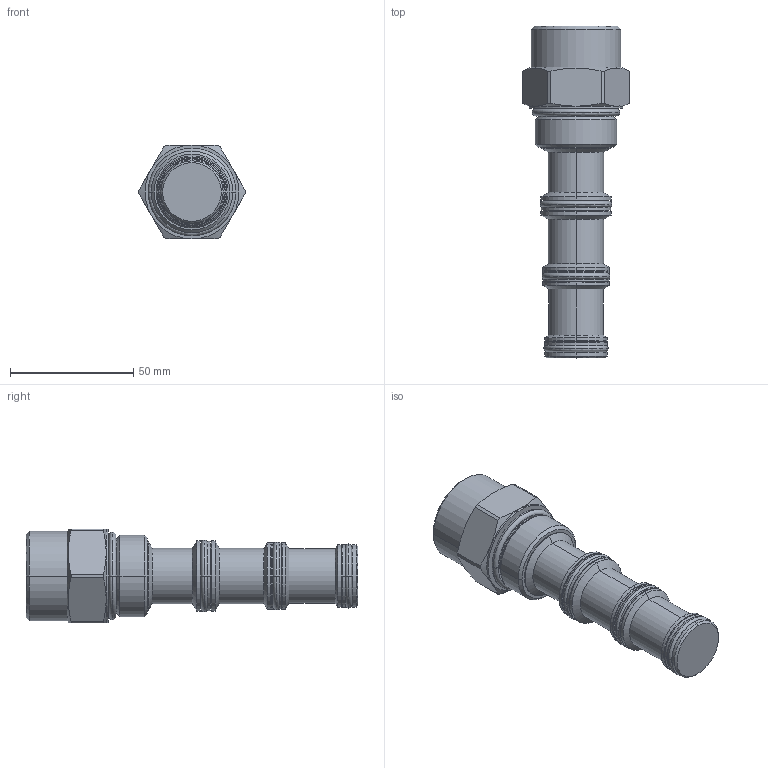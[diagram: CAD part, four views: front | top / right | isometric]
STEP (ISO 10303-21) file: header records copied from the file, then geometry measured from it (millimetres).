
FILE_DESCRIPTION((''),'2;1');
FILE_NAME('5439400_SW0001','2009-01-30T',('jcs'),(''),'PRO/ENGINEER BY PARAMETRIC TECHNOLOGY CORPORATION, 2008010','PRO/ENGINEER BY PARAMETRIC TECHNOLOGY CORPORATION, 2008010','');
FILE_SCHEMA(('CONFIG_CONTROL_DESIGN'));
Length unit declared in the file: inch
Products named in the file (1): 5439400_SW0001
Bounding box: 43.23 x 134.9 x 38.1 mm (x, y, z)
Volume: 90141 mm3; surface area: 20021 mm2
Topology: 6 solids, 6 shells, 172 faces, 356 edges, 202 vertices
Faces by surface type: cylinder 58, revolution 32, cone 30, torus 28, plane 24
Entity records: 5170 total; most frequent: CARTESIAN_POINT 1420, DIRECTION 836, ORIENTED_EDGE 712, AXIS2_PLACEMENT_3D 358, EDGE_CURVE 356, CIRCLE 218, VERTEX_POINT 202, EDGE_LOOP 188
